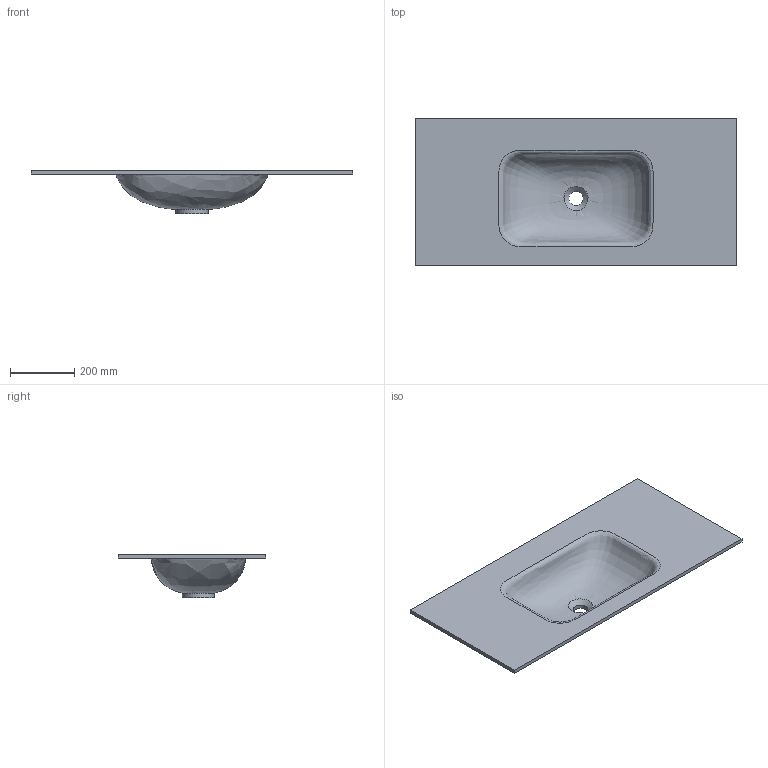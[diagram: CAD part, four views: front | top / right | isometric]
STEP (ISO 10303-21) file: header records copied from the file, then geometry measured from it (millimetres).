
FILE_DESCRIPTION(/* description */ (''),/* implementation_level */ '2;1');
FILE_NAME(/* name */ 'KKR-FGE04.stp',/* time_stamp */ '2025-10-25T10:46:35+08:00',/* author */ (''),/* organization */ (''),/* preprocessor_version */ 'ST-DEVELOPER v20',/* originating_system */ 'SIEMENS PLM Software NX2412.4001',/* authorisation */ '');
FILE_SCHEMA (('AUTOMOTIVE_DESIGN { 1 0 10303 214 3 1 1 1 }'));
Length unit declared in the file: millimetre
Products named in the file (1): KKR-FGE04
Bounding box: 1002 x 460 x 135 mm (x, y, z)
Volume: 6268115 mm3; surface area: 1077916.4 mm2
Topology: 1 solids, 1 shells, 12 faces, 28 edges, 19 vertices
Faces by surface type: plane 7, bspline 2, cylinder 2, cone 1
Full cylindrical faces by diameter (mm): 45 x1, 100 x1
Entity records: 30292 total; most frequent: CARTESIAN_POINT 30043, DIRECTION 40, ORIENTED_EDGE 38, EDGE_LOOP 20, EDGE_CURVE 19, FACE_BOUND 16, VERTEX_POINT 15, AXIS2_PLACEMENT_3D 14
